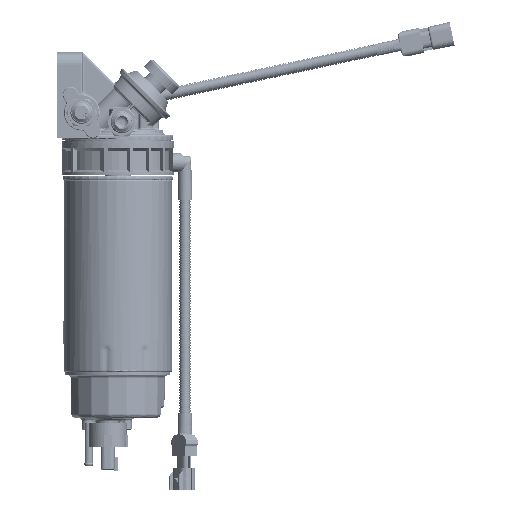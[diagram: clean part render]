
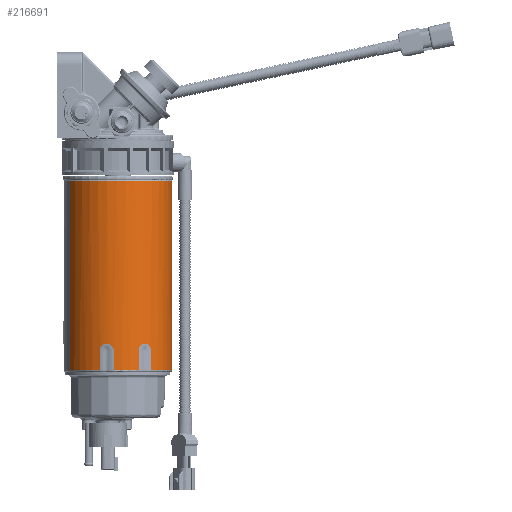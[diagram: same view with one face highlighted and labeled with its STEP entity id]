
A CAD part, front view. The second image highlights one B-rep face of the part: STEP entity #216691.
In plain terms, the highlighted cylindrical face has radius 54 mm (diameter 108 mm), a partial arc.
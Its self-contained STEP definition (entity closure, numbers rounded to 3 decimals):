
#215598=CARTESIAN_POINT('Vertex',(48.702,23.326,-231.15)) ;
#215643=CARTESIAN_POINT('Vertex',(47.389,25.889,-231.15)) ;
#215646=CARTESIAN_POINT('Axis2P3D Location',(0.,0.,-231.15)) ;
#215793=CARTESIAN_POINT('Vertex',(32.942,-42.788,-231.15)) ;
#215824=CARTESIAN_POINT('Vertex',(53.112,9.755,-231.15)) ;
#215827=CARTESIAN_POINT('Axis2P3D Location',(0.,0.,-231.15)) ;
#215926=CARTESIAN_POINT('Vertex',(-4.15,-53.84,-231.15)) ;
#215962=CARTESIAN_POINT('Vertex',(20.585,-49.923,-231.15)) ;
#215965=CARTESIAN_POINT('Axis2P3D Location',(0.,0.,-231.15)) ;
#216101=CARTESIAN_POINT('Vertex',(-18.107,-50.874,-231.15)) ;
#216104=CARTESIAN_POINT('Axis2P3D Location',(0.,0.,-231.15)) ;
#216108=CARTESIAN_POINT('Vertex',(-47.389,-25.889,-231.15)) ;
#216415=CARTESIAN_POINT('Line Origine',(48.702,23.326,-139.9)) ;
#216419=CARTESIAN_POINT('Vertex',(48.702,23.326,-211.442)) ;
#216434=CARTESIAN_POINT('Axis2P3D Location',(0.,0.,-42.7)) ;
#216501=CARTESIAN_POINT('Line Origine',(-47.389,-25.889,-42.7)) ;
#216505=CARTESIAN_POINT('Vertex',(-47.389,-25.889,-43.484)) ;
#216524=CARTESIAN_POINT('Vertex',(47.389,25.889,-43.484)) ;
#216527=CARTESIAN_POINT('Line Origine',(47.389,25.889,-42.7)) ;
#216582=CARTESIAN_POINT('Line Origine',(20.585,-49.923,-42.7)) ;
#216586=CARTESIAN_POINT('Vertex',(20.585,-49.923,-211.442)) ;
#216590=CARTESIAN_POINT('Control Point',(32.942,-42.788,-211.442)) ;
#216591=CARTESIAN_POINT('Control Point',(32.942,-42.788,-210.176)) ;
#216592=CARTESIAN_POINT('Control Point',(32.699,-42.975,-208.91)) ;
#216593=CARTESIAN_POINT('Control Point',(32.214,-43.35,-207.74)) ;
#216594=CARTESIAN_POINT('Control Point',(31.163,-44.121,-206.246)) ;
#216595=CARTESIAN_POINT('Control Point',(29.746,-45.074,-205.275)) ;
#216596=CARTESIAN_POINT('Control Point',(29.234,-45.409,-205.014)) ;
#216597=CARTESIAN_POINT('Control Point',(27.615,-46.432,-204.441)) ;
#216598=CARTESIAN_POINT('Control Point',(25.844,-47.444,-204.523)) ;
#216599=CARTESIAN_POINT('Control Point',(24.67,-48.059,-204.886)) ;
#216600=CARTESIAN_POINT('Control Point',(22.656,-49.039,-206.099)) ;
#216601=CARTESIAN_POINT('Control Point',(21.273,-49.639,-208.095)) ;
#216602=CARTESIAN_POINT('Control Point',(20.814,-49.828,-209.165)) ;
#216603=CARTESIAN_POINT('Control Point',(20.585,-49.923,-210.303)) ;
#216604=CARTESIAN_POINT('Control Point',(20.585,-49.923,-211.442)) ;
#216605=CARTESIAN_POINT('Vertex',(32.942,-42.788,-211.442)) ;
#216608=CARTESIAN_POINT('Line Origine',(32.942,-42.788,-42.7)) ;
#216613=CARTESIAN_POINT('Line Origine',(53.112,9.755,-42.7)) ;
#216617=CARTESIAN_POINT('Vertex',(53.112,9.755,-211.442)) ;
#216621=CARTESIAN_POINT('Control Point',(53.112,9.755,-211.442)) ;
#216622=CARTESIAN_POINT('Control Point',(53.112,9.755,-210.176)) ;
#216623=CARTESIAN_POINT('Control Point',(53.056,10.057,-208.91)) ;
#216624=CARTESIAN_POINT('Control Point',(52.946,10.66,-207.74)) ;
#216625=CARTESIAN_POINT('Control Point',(52.681,11.936,-206.246)) ;
#216626=CARTESIAN_POINT('Control Point',(52.266,13.593,-205.275)) ;
#216627=CARTESIAN_POINT('Control Point',(52.109,14.185,-205.014)) ;
#216628=CARTESIAN_POINT('Control Point',(51.591,16.027,-204.441)) ;
#216629=CARTESIAN_POINT('Control Point',(50.952,17.965,-204.523)) ;
#216630=CARTESIAN_POINT('Control Point',(50.491,19.207,-204.886)) ;
#216631=CARTESIAN_POINT('Control Point',(49.65,21.283,-206.099)) ;
#216632=CARTESIAN_POINT('Control Point',(49.024,22.655,-208.095)) ;
#216633=CARTESIAN_POINT('Control Point',(48.809,23.102,-209.165)) ;
#216634=CARTESIAN_POINT('Control Point',(48.702,23.326,-210.303)) ;
#216635=CARTESIAN_POINT('Control Point',(48.702,23.326,-211.442)) ;
#216637=CARTESIAN_POINT('Axis2P3D Location',(0.,0.,-43.484)) ;
#216642=CARTESIAN_POINT('Line Origine',(-18.107,-50.874,-42.7)) ;
#216646=CARTESIAN_POINT('Vertex',(-18.107,-50.874,-211.442)) ;
#216650=CARTESIAN_POINT('Control Point',(-18.107,-50.874,-211.442)) ;
#216651=CARTESIAN_POINT('Control Point',(-18.107,-50.874,-210.176)) ;
#216652=CARTESIAN_POINT('Control Point',(-17.819,-50.976,-208.91)) ;
#216653=CARTESIAN_POINT('Control Point',(-17.241,-51.183,-207.74)) ;
#216654=CARTESIAN_POINT('Control Point',(-16.003,-51.591,-206.246)) ;
#216655=CARTESIAN_POINT('Control Point',(-14.362,-52.06,-205.275)) ;
#216656=CARTESIAN_POINT('Control Point',(-13.771,-52.22,-205.014)) ;
#216657=CARTESIAN_POINT('Control Point',(-11.916,-52.693,-204.441)) ;
#216658=CARTESIAN_POINT('Control Point',(-9.918,-53.108,-204.523)) ;
#216659=CARTESIAN_POINT('Control Point',(-8.612,-53.33,-204.886)) ;
#216660=CARTESIAN_POINT('Control Point',(-6.393,-53.64,-206.099)) ;
#216661=CARTESIAN_POINT('Control Point',(-4.892,-53.783,-208.095)) ;
#216662=CARTESIAN_POINT('Control Point',(-4.397,-53.821,-209.165)) ;
#216663=CARTESIAN_POINT('Control Point',(-4.15,-53.84,-210.303)) ;
#216664=CARTESIAN_POINT('Control Point',(-4.15,-53.84,-211.442)) ;
#216665=CARTESIAN_POINT('Vertex',(-4.15,-53.84,-211.442)) ;
#216668=CARTESIAN_POINT('Line Origine',(-4.15,-53.84,-42.7)) ;
#215647=DIRECTION('Axis2P3D Direction',(0.,0.,1.)) ;
#215828=DIRECTION('Axis2P3D Direction',(0.,0.,1.)) ;
#215966=DIRECTION('Axis2P3D Direction',(0.,0.,1.)) ;
#216105=DIRECTION('Axis2P3D Direction',(0.,0.,1.)) ;
#216416=DIRECTION('Vector Direction',(0.,0.,-1.)) ;
#216435=DIRECTION('Axis2P3D Direction',(0.,0.,1.)) ;
#216436=DIRECTION('Axis2P3D XDirection',(-0.878,-0.479,0.)) ;
#216502=DIRECTION('Vector Direction',(0.,0.,1.)) ;
#216528=DIRECTION('Vector Direction',(0.,0.,1.)) ;
#216583=DIRECTION('Vector Direction',(0.,0.,1.)) ;
#216609=DIRECTION('Vector Direction',(0.,0.,1.)) ;
#216614=DIRECTION('Vector Direction',(0.,0.,1.)) ;
#216638=DIRECTION('Axis2P3D Direction',(0.,0.,1.)) ;
#216643=DIRECTION('Vector Direction',(0.,0.,1.)) ;
#216669=DIRECTION('Vector Direction',(0.,0.,1.)) ;
#215648=AXIS2_PLACEMENT_3D('Circle Axis2P3D',#215646,#215647,$) ;
#215829=AXIS2_PLACEMENT_3D('Circle Axis2P3D',#215827,#215828,$) ;
#215967=AXIS2_PLACEMENT_3D('Circle Axis2P3D',#215965,#215966,$) ;
#216106=AXIS2_PLACEMENT_3D('Circle Axis2P3D',#216104,#216105,$) ;
#216437=AXIS2_PLACEMENT_3D('Cylinder Axis2P3D',#216434,#216435,#216436) ;
#216639=AXIS2_PLACEMENT_3D('Circle Axis2P3D',#216637,#216638,$) ;
#216674=ORIENTED_EDGE('',*,*,#215969,.T.) ;
#216675=ORIENTED_EDGE('',*,*,#216588,.T.) ;
#216676=ORIENTED_EDGE('',*,*,#216607,.T.) ;
#216677=ORIENTED_EDGE('',*,*,#216612,.T.) ;
#216678=ORIENTED_EDGE('',*,*,#215831,.T.) ;
#216679=ORIENTED_EDGE('',*,*,#216619,.T.) ;
#216680=ORIENTED_EDGE('',*,*,#216636,.T.) ;
#216681=ORIENTED_EDGE('',*,*,#216421,.T.) ;
#216682=ORIENTED_EDGE('',*,*,#215650,.T.) ;
#216683=ORIENTED_EDGE('',*,*,#216531,.T.) ;
#216684=ORIENTED_EDGE('',*,*,#216641,.F.) ;
#216685=ORIENTED_EDGE('',*,*,#216507,.F.) ;
#216686=ORIENTED_EDGE('',*,*,#216110,.T.) ;
#216687=ORIENTED_EDGE('',*,*,#216648,.T.) ;
#216688=ORIENTED_EDGE('',*,*,#216667,.T.) ;
#216689=ORIENTED_EDGE('',*,*,#216672,.T.) ;
#216417=VECTOR('Line Direction',#216416,1.) ;
#216503=VECTOR('Line Direction',#216502,1.) ;
#216529=VECTOR('Line Direction',#216528,1.) ;
#216584=VECTOR('Line Direction',#216583,1.) ;
#216610=VECTOR('Line Direction',#216609,1.) ;
#216615=VECTOR('Line Direction',#216614,1.) ;
#216644=VECTOR('Line Direction',#216643,1.) ;
#216670=VECTOR('Line Direction',#216669,1.) ;
#216691=ADVANCED_FACE('#Final_Part',(#216690),#216438,.T.) ;
#216589=B_SPLINE_CURVE_WITH_KNOTS('',5,(#216590,#216591,#216592,#216593,#216594,#216595,#216596,#216597,#216598,#216599,#216600,#216601,#216602,#216603,#216604),.UNSPECIFIED.,.F.,.U.,(6,3,3,3,6),(0.,9.094,13.721,22.98,31.159),.UNSPECIFIED.) ;
#216620=B_SPLINE_CURVE_WITH_KNOTS('',5,(#216621,#216622,#216623,#216624,#216625,#216626,#216627,#216628,#216629,#216630,#216631,#216632,#216633,#216634,#216635),.UNSPECIFIED.,.F.,.U.,(6,3,3,3,6),(0.,9.094,13.721,22.98,31.159),.UNSPECIFIED.) ;
#216649=B_SPLINE_CURVE_WITH_KNOTS('',5,(#216650,#216651,#216652,#216653,#216654,#216655,#216656,#216657,#216658,#216659,#216660,#216661,#216662,#216663,#216664),.UNSPECIFIED.,.F.,.U.,(6,3,3,3,6),(0.,9.094,13.721,22.98,31.159),.UNSPECIFIED.) ;
#215649=CIRCLE('generated circle',#215648,54.) ;
#215830=CIRCLE('generated circle',#215829,54.) ;
#215968=CIRCLE('generated circle',#215967,54.) ;
#216107=CIRCLE('generated circle',#216106,54.) ;
#216640=CIRCLE('generated circle',#216639,54.) ;
#216438=CYLINDRICAL_SURFACE('generated cylinder',#216437,54.) ;
#215650=EDGE_CURVE('',#215599,#215644,#215649,.T.) ;
#215831=EDGE_CURVE('',#215794,#215825,#215830,.T.) ;
#215969=EDGE_CURVE('',#215927,#215963,#215968,.T.) ;
#216110=EDGE_CURVE('',#216109,#216102,#216107,.T.) ;
#216421=EDGE_CURVE('',#216420,#215599,#216418,.T.) ;
#216507=EDGE_CURVE('',#216109,#216506,#216504,.T.) ;
#216531=EDGE_CURVE('',#215644,#216525,#216530,.T.) ;
#216588=EDGE_CURVE('',#215963,#216587,#216585,.T.) ;
#216607=EDGE_CURVE('',#216587,#216606,#216589,.F.) ;
#216612=EDGE_CURVE('',#216606,#215794,#216611,.F.) ;
#216619=EDGE_CURVE('',#215825,#216618,#216616,.T.) ;
#216636=EDGE_CURVE('',#216618,#216420,#216620,.T.) ;
#216641=EDGE_CURVE('',#216506,#216525,#216640,.T.) ;
#216648=EDGE_CURVE('',#216102,#216647,#216645,.T.) ;
#216667=EDGE_CURVE('',#216647,#216666,#216649,.T.) ;
#216672=EDGE_CURVE('',#216666,#215927,#216671,.F.) ;
#216673=EDGE_LOOP('',(#216674,#216675,#216676,#216677,#216678,#216679,#216680,#216681,#216682,#216683,#216684,#216685,#216686,#216687,#216688,#216689)) ;
#216690=FACE_OUTER_BOUND('',#216673,.T.) ;
#216418=LINE('Line',#216415,#216417) ;
#216504=LINE('Line',#216501,#216503) ;
#216530=LINE('Line',#216527,#216529) ;
#216585=LINE('Line',#216582,#216584) ;
#216611=LINE('Line',#216608,#216610) ;
#216616=LINE('Line',#216613,#216615) ;
#216645=LINE('Line',#216642,#216644) ;
#216671=LINE('Line',#216668,#216670) ;
#215599=VERTEX_POINT('',#215598) ;
#215644=VERTEX_POINT('',#215643) ;
#215794=VERTEX_POINT('',#215793) ;
#215825=VERTEX_POINT('',#215824) ;
#215927=VERTEX_POINT('',#215926) ;
#215963=VERTEX_POINT('',#215962) ;
#216102=VERTEX_POINT('',#216101) ;
#216109=VERTEX_POINT('',#216108) ;
#216420=VERTEX_POINT('',#216419) ;
#216506=VERTEX_POINT('',#216505) ;
#216525=VERTEX_POINT('',#216524) ;
#216587=VERTEX_POINT('',#216586) ;
#216606=VERTEX_POINT('',#216605) ;
#216618=VERTEX_POINT('',#216617) ;
#216647=VERTEX_POINT('',#216646) ;
#216666=VERTEX_POINT('',#216665) ;
